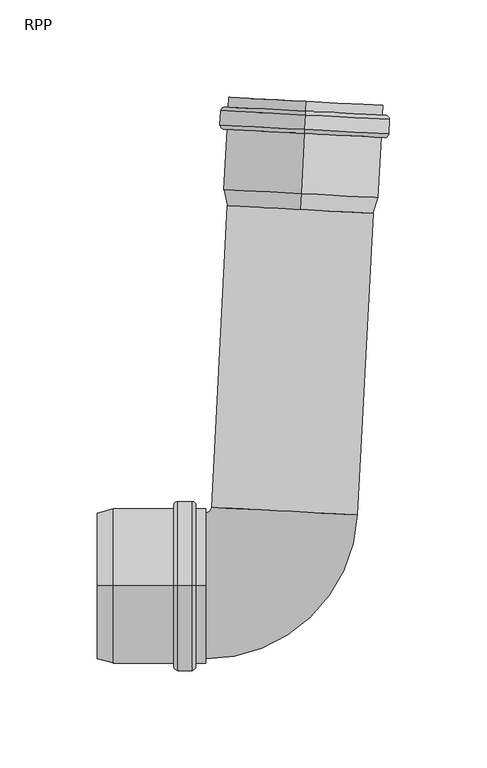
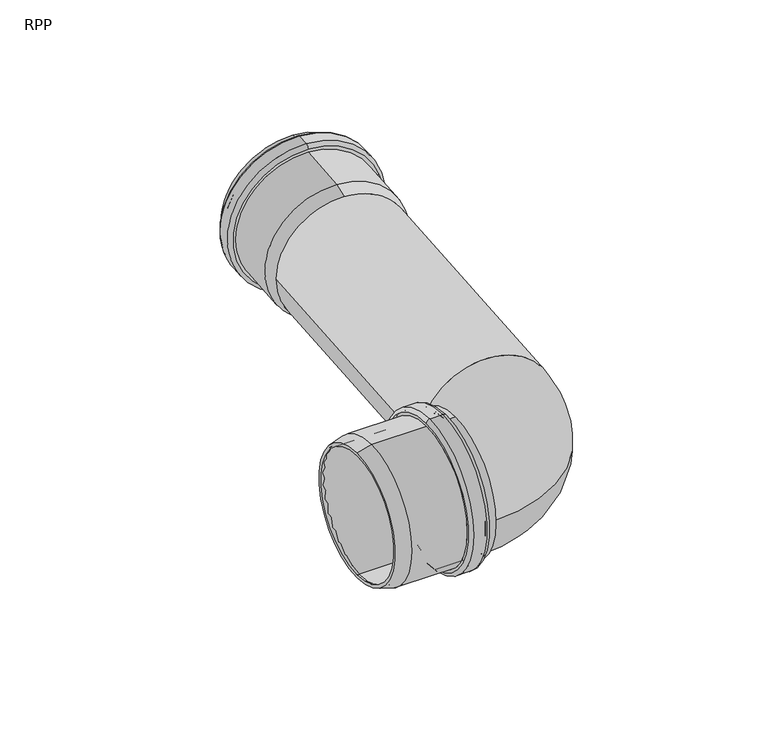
"""IFC4 building model written with IfcOpenShell, lengths in millimetres: pipe fitting geometry, RAUPIANO PLUS Deflection Bend : RPP."""

from ifc_helpers import new_model, si_unit, point, frame, origin, place, context, project, spatial, polyline, circle_curve, ellipse_curve, trimmed, source, transform, mapped, element, save
from ifc_brep_helpers import plane_surface, cylinder_surface, revolved_surface, advanced_brep


def rpp_fa5d5660(model_context):
    return source(origin(), model_context, "Body", "AdvancedBrep", [
        advanced_brep(
        [(-52.933065, 0.0, 37.8), (-52.933065, 0.0, -37.8), (-85.5724134, 0.0, -37.8), (-85.5724134, 0.0, 37.8), (-52.433065, 0.0, 41.6), (-52.433065, 0.0, -41.6), (-52.933065, 0.0, -41.1), (-52.933065, 0.0, 41.1), (-45.833065, 0.0, 41.6), (-45.833065, 0.0, -41.6), (-45.333065, 0.0, 41.1), (-45.333065, 0.0, -41.1), (-38.433065, 0.0, 37.8), (-38.433065, 0.0, -37.8), (-45.333065, 0.0, -37.8), (-45.333065, 0.0, 37.8), (-43.433065, 0.0, 39.7), (-43.433065, 0.0, -39.7), (-38.433065, 0.0, -39.7), (-38.433065, 0.0, 39.7), (-45.433065, 0.0, 43.5), (-45.433065, 0.0, -43.5), (-43.433065, 0.0, -41.5), (-43.433065, 0.0, 41.5), (-52.833065, 0.0, 43.5), (-52.833065, 0.0, -43.5), (-54.833065, 0.0, 41.5), (-54.833065, 0.0, -41.5), (-85.8225532, 0.0, 39.7), (-85.8225532, 0.0, -39.7), (-54.833065, 0.0, -39.7), (-54.833065, 0.0, 39.7), (-94.033065, 0.0, 37.5), (-94.033065, 0.0, -37.5), (-94.033065, 0.0, -35.5329753), (-94.033065, 0.0, 35.5329753)],
        [
            (0, 1, circle_curve(frame((-52.933065, 0.0, 0.0), z_axis=(1.0, 0.0, 0.0), x_axis=(0.0, 0.0, -1.0)), 37.8)),
            (1, 2),
            (2, 3, circle_curve(frame((-85.5724134, 0.0, 0.0), z_axis=(-1.0, 0.0, 0.0), x_axis=(0.0, 0.0, -1.0)), 37.8)),
            (3, 0),
            (4, 5, circle_curve(frame((-52.433065, 0.0, 0.0), z_axis=(1.0, 0.0, 0.0), x_axis=(0.0, 0.0, -1.0)), 41.6)),
            (5, 6, circle_curve(frame((-52.433065, 0.0, -41.1), z_axis=(0.0, 1.0, 0.0), x_axis=(0.0, 0.0, 1.0)), 0.5)),
            (6, 7, circle_curve(frame((-52.933065, 0.0, 0.0), z_axis=(-1.0, 0.0, 0.0), x_axis=(0.0, 0.0, -1.0)), 41.1)),
            (7, 4, circle_curve(frame((-52.433065, 0.0, 41.1), z_axis=(0.0, 1.0, 0.0), x_axis=(0.0, 0.0, -1.0)), 0.5)),
            (8, 9, circle_curve(frame((-45.833065, 0.0, 0.0), z_axis=(1.0, 0.0, 0.0), x_axis=(0.0, 0.0, -1.0)), 41.6)),
            (9, 5),
            (4, 8),
            (10, 11, circle_curve(frame((-45.333065, 0.0, 0.0), z_axis=(1.0, 0.0, 0.0), x_axis=(0.0, 0.0, -1.0)), 41.1)),
            (11, 9, circle_curve(frame((-45.833065, 0.0, -41.1), z_axis=(0.0, 1.0, 0.0), x_axis=(0.0, 0.0, 1.0)), 0.5)),
            (8, 10, circle_curve(frame((-45.833065, 0.0, 41.1), z_axis=(0.0, 1.0, 0.0), x_axis=(0.0, 0.0, -1.0)), 0.5)),
            (12, 13, circle_curve(frame((-38.433065, 0.0, 0.0), z_axis=(1.0, 0.0, 0.0), x_axis=(0.0, 0.0, -1.0)), 37.8)),
            (13, 14),
            (14, 15, circle_curve(frame((-45.333065, 0.0, 0.0), z_axis=(-1.0, 0.0, 0.0), x_axis=(0.0, 0.0, -1.0)), 37.8)),
            (15, 12),
            (16, 17, circle_curve(frame((-43.433065, 0.0, 0.0), z_axis=(1.0, 0.0, 0.0), x_axis=(0.0, 0.0, -1.0)), 39.7)),
            (17, 18),
            (18, 19, circle_curve(frame((-38.433065, 0.0, 0.0), z_axis=(-1.0, 0.0, 0.0), x_axis=(0.0, 0.0, -1.0)), 39.7)),
            (19, 16),
            (20, 21, circle_curve(frame((-45.433065, 0.0, 0.0), z_axis=(1.0, 0.0, 0.0), x_axis=(0.0, 0.0, -1.0)), 43.5)),
            (21, 22, circle_curve(frame((-45.433065, 0.0, -41.5), z_axis=(0.0, -1.0, 0.0), x_axis=(0.0, 0.0, 1.0)), 2.0)),
            (22, 23, circle_curve(frame((-43.433065, 0.0, 0.0), z_axis=(-1.0, 0.0, 0.0), x_axis=(0.0, 0.0, -1.0)), 41.5)),
            (23, 20, circle_curve(frame((-45.433065, 0.0, 41.5), z_axis=(0.0, -1.0, 0.0), x_axis=(0.0, 0.0, -1.0)), 2.0)),
            (24, 25, circle_curve(frame((-52.833065, 0.0, 0.0), z_axis=(1.0, 0.0, 0.0), x_axis=(0.0, 0.0, -1.0)), 43.5)),
            (25, 21),
            (20, 24),
            (26, 27, circle_curve(frame((-54.833065, 0.0, 0.0), z_axis=(1.0, 0.0, 0.0), x_axis=(0.0, 0.0, -1.0)), 41.5)),
            (27, 25, circle_curve(frame((-52.833065, 0.0, -41.5), z_axis=(0.0, -1.0, 0.0), x_axis=(0.0, 0.0, 1.0)), 2.0)),
            (24, 26, circle_curve(frame((-52.833065, 0.0, 41.5), z_axis=(0.0, -1.0, 0.0), x_axis=(0.0, 0.0, -1.0)), 2.0)),
            (28, 29, circle_curve(frame((-85.8225532, 0.0, 0.0), z_axis=(1.0, 0.0, 0.0), x_axis=(0.0, 0.0, -1.0)), 39.7)),
            (29, 30),
            (30, 31, circle_curve(frame((-54.833065, 0.0, 0.0), z_axis=(-1.0, 0.0, 0.0), x_axis=(0.0, 0.0, -1.0)), 39.7)),
            (31, 28),
            (32, 33, circle_curve(frame((-94.033065, 0.0, 0.0), z_axis=(1.0, 0.0, 0.0), x_axis=(0.0, 0.0, -1.0)), 37.5)),
            (33, 29),
            (28, 32),
            (2, 34),
            (34, 35, circle_curve(frame((-94.033065, 0.0, 0.0), z_axis=(-1.0, 0.0, 0.0), x_axis=(0.0, 0.0, -1.0)), 35.5329753)),
            (35, 3),
            (1, 0, circle_curve(frame((-52.933065, 0.0, 0.0), z_axis=(1.0, 0.0, 0.0), x_axis=(0.0, 0.0, 1.0)), 37.8)),
            (3, 2, circle_curve(frame((-85.5724134, 0.0, 0.0), z_axis=(-1.0, 0.0, 0.0), x_axis=(0.0, 0.0, 1.0)), 37.8)),
            (6, 7, circle_curve(frame((-52.933065, 0.0, 0.0), z_axis=(1.0, 0.0, 0.0), x_axis=(0.0, 0.0, 1.0)), 41.1)),
            (5, 4, circle_curve(frame((-52.433065, 0.0, 0.0), z_axis=(1.0, 0.0, 0.0), x_axis=(0.0, 0.0, 1.0)), 41.6)),
            (9, 8, circle_curve(frame((-45.833065, 0.0, 0.0), z_axis=(1.0, 0.0, 0.0), x_axis=(0.0, 0.0, 1.0)), 41.6)),
            (11, 10, circle_curve(frame((-45.333065, 0.0, 0.0), z_axis=(1.0, 0.0, 0.0), x_axis=(0.0, 0.0, 1.0)), 41.1)),
            (14, 15, circle_curve(frame((-45.333065, 0.0, 0.0), z_axis=(1.0, 0.0, 0.0), x_axis=(0.0, 0.0, 1.0)), 37.8)),
            (13, 12, circle_curve(frame((-38.433065, 0.0, 0.0), z_axis=(1.0, 0.0, 0.0), x_axis=(0.0, 0.0, 1.0)), 37.8)),
            (18, 19, circle_curve(frame((-38.433065, 0.0, 0.0), z_axis=(1.0, 0.0, 0.0), x_axis=(0.0, 0.0, 1.0)), 39.7)),
            (17, 16, circle_curve(frame((-43.433065, 0.0, 0.0), z_axis=(1.0, 0.0, 0.0), x_axis=(0.0, 0.0, 1.0)), 39.7)),
            (22, 23, circle_curve(frame((-43.433065, 0.0, 0.0), z_axis=(1.0, 0.0, 0.0), x_axis=(0.0, 0.0, 1.0)), 41.5)),
            (21, 20, circle_curve(frame((-45.433065, 0.0, 0.0), z_axis=(1.0, 0.0, 0.0), x_axis=(0.0, 0.0, 1.0)), 43.5)),
            (25, 24, circle_curve(frame((-52.833065, 0.0, 0.0), z_axis=(1.0, 0.0, 0.0), x_axis=(0.0, 0.0, 1.0)), 43.5)),
            (27, 26, circle_curve(frame((-54.833065, 0.0, 0.0), z_axis=(1.0, 0.0, 0.0), x_axis=(0.0, 0.0, 1.0)), 41.5)),
            (30, 31, circle_curve(frame((-54.833065, 0.0, 0.0), z_axis=(1.0, 0.0, 0.0), x_axis=(0.0, 0.0, 1.0)), 39.7)),
            (29, 28, circle_curve(frame((-85.8225532, 0.0, 0.0), z_axis=(1.0, 0.0, 0.0), x_axis=(0.0, 0.0, 1.0)), 39.7)),
            (33, 32, circle_curve(frame((-94.033065, 0.0, 0.0), z_axis=(1.0, 0.0, 0.0), x_axis=(0.0, 0.0, 1.0)), 37.5)),
            (34, 35, circle_curve(frame((-94.033065, 0.0, 0.0), z_axis=(1.0, 0.0, 0.0), x_axis=(0.0, 0.0, 1.0)), 35.5329753)),
        ],
        [
            revolved_surface(polyline([(-85.5724134, 0.0, -37.8), (-52.933065, 0.0, -37.8)]), (-94.033065, 0.0, 0.0), (-1.0, 0.0, 0.0)),
            revolved_surface(trimmed(ellipse_curve(frame((-52.433065, 0.0, -41.1), z_axis=(0.0, -1.0, 0.0), x_axis=(0.0, 0.0, 1.0)), 0.5, 0.5), [point((-52.933065, 0.0, -41.1))], [point((-52.433065, 0.0, -41.6))], True, "CARTESIAN"), (-94.033065, 0.0, 0.0), (-1.0, 0.0, 0.0)),
            revolved_surface(polyline([(-52.433065, 0.0, -41.6), (-45.833065, 0.0, -41.6)]), (-94.033065, 0.0, 0.0), (-1.0, 0.0, 0.0)),
            revolved_surface(trimmed(ellipse_curve(frame((-45.833065, 0.0, -41.1), z_axis=(0.0, -1.0, 0.0), x_axis=(0.0, 0.0, 1.0)), 0.5, 0.5), [point((-45.833065, 0.0, -41.6))], [point((-45.333065, 0.0, -41.1))], True, "CARTESIAN"), (-94.033065, 0.0, 0.0), (-1.0, 0.0, 0.0)),
            revolved_surface(polyline([(-45.333065, 0.0, -37.8), (-38.433065, 0.0, -37.8)]), (-94.033065, 0.0, 0.0), (-1.0, 0.0, 0.0)),
            cylinder_surface(frame((-94.033065, 0.0, 0.0), z_axis=(-1.0, 0.0, 0.0), x_axis=(0.0, 0.0, -1.0)), 39.7),
            revolved_surface(trimmed(ellipse_curve(frame((-45.433065, 0.0, -41.5), z_axis=(0.0, 1.0, 0.0), x_axis=(0.0, 0.0, 1.0)), 2.0, 2.0), [point((-43.433065, 0.0, -41.5))], [point((-45.433065, 0.0, -43.5))], True, "CARTESIAN"), (-94.033065, 0.0, 0.0), (-1.0, 0.0, 0.0)),
            cylinder_surface(frame((-94.033065, 0.0, 0.0), z_axis=(-1.0, 0.0, 0.0), x_axis=(0.0, 0.0, -1.0)), 43.5),
            revolved_surface(trimmed(ellipse_curve(frame((-52.833065, 0.0, -41.5), z_axis=(0.0, 1.0, 0.0), x_axis=(0.0, 0.0, 1.0)), 2.0, 2.0), [point((-52.833065, 0.0, -43.5))], [point((-54.833065, 0.0, -41.5))], True, "CARTESIAN"), (-94.033065, 0.0, 0.0), (-1.0, 0.0, 0.0)),
            revolved_surface(polyline([(-85.8225532, 0.0, -39.7), (-94.033065, 0.0, -37.5)]), (-94.033065, 0.0, 0.0), (-1.0, 0.0, 0.0)),
            revolved_surface(polyline([(-94.033065, 0.0, -35.5329753), (-85.5724134, 0.0, -37.8)]), (-94.033065, 0.0, 0.0), (-1.0, 0.0, 0.0)),
            revolved_surface(polyline([(-85.5724134, 0.0, 37.8), (-52.933065, 0.0, 37.8)]), (-94.033065, 0.0, 0.0), (-1.0, 0.0, 0.0)),
            plane_surface(frame((-52.933065, 0.0, 0.0), z_axis=(1.0, 0.0, 0.0), x_axis=(0.0, 0.0, 1.0))),
            revolved_surface(trimmed(ellipse_curve(frame((-52.433065, 0.0, 41.1), z_axis=(0.0, 1.0, 0.0), x_axis=(0.0, 0.0, -1.0)), 0.5, 0.5), [point((-52.933065, 0.0, 41.1))], [point((-52.433065, 0.0, 41.6))], True, "CARTESIAN"), (-94.033065, 0.0, 0.0), (-1.0, 0.0, 0.0)),
            revolved_surface(polyline([(-52.433065, 0.0, 41.6), (-45.833065, 0.0, 41.6)]), (-94.033065, 0.0, 0.0), (-1.0, 0.0, 0.0)),
            revolved_surface(trimmed(ellipse_curve(frame((-45.833065, 0.0, 41.1), z_axis=(0.0, 1.0, 0.0), x_axis=(0.0, 0.0, -1.0)), 0.5, 0.5), [point((-45.833065, 0.0, 41.6))], [point((-45.333065, 0.0, 41.1))], True, "CARTESIAN"), (-94.033065, 0.0, 0.0), (-1.0, 0.0, 0.0)),
            plane_surface(frame((-45.333065, 0.0, 0.0), z_axis=(-1.0, 0.0, 0.0), x_axis=(0.0, 0.0, 1.0))),
            revolved_surface(polyline([(-45.333065, 0.0, 37.8), (-38.433065, 0.0, 37.8)]), (-94.033065, 0.0, 0.0), (-1.0, 0.0, 0.0)),
            plane_surface(frame((-38.433065, 0.0, 0.0), z_axis=(1.0, 0.0, 0.0), x_axis=(0.0, 0.0, 1.0))),
            cylinder_surface(frame((-94.033065, 0.0, 0.0), z_axis=(-1.0, 0.0, 0.0), x_axis=(0.0, 0.0, 1.0)), 39.7),
            plane_surface(frame((-43.433065, 0.0, 0.0), z_axis=(1.0, 0.0, 0.0), x_axis=(0.0, 0.0, 1.0))),
            revolved_surface(trimmed(ellipse_curve(frame((-45.433065, 0.0, 41.5), z_axis=(0.0, -1.0, 0.0), x_axis=(0.0, 0.0, -1.0)), 2.0, 2.0), [point((-43.433065, 0.0, 41.5))], [point((-45.433065, 0.0, 43.5))], True, "CARTESIAN"), (-94.033065, 0.0, 0.0), (-1.0, 0.0, 0.0)),
            cylinder_surface(frame((-94.033065, 0.0, 0.0), z_axis=(-1.0, 0.0, 0.0), x_axis=(0.0, 0.0, 1.0)), 43.5),
            revolved_surface(trimmed(ellipse_curve(frame((-52.833065, 0.0, 41.5), z_axis=(0.0, -1.0, 0.0), x_axis=(0.0, 0.0, -1.0)), 2.0, 2.0), [point((-52.833065, 0.0, 43.5))], [point((-54.833065, 0.0, 41.5))], True, "CARTESIAN"), (-94.033065, 0.0, 0.0), (-1.0, 0.0, 0.0)),
            plane_surface(frame((-54.833065, 0.0, 0.0), z_axis=(-1.0, 0.0, 0.0), x_axis=(0.0, 0.0, 1.0))),
            revolved_surface(polyline([(-85.8225532, 0.0, 39.7), (-94.033065, 0.0, 37.5)]), (-94.033065, 0.0, 0.0), (-1.0, 0.0, 0.0)),
            plane_surface(frame((-94.033065, 0.0, 0.0), z_axis=(-1.0, 0.0, 0.0), x_axis=(0.0, 0.0, 1.0))),
            revolved_surface(polyline([(-94.033065, 0.0, 35.5329753), (-85.5724134, 0.0, 37.8)]), (-94.033065, 0.0, 0.0), (-1.0, 0.0, 0.0)),
        ],
        [
            (0, [[1, 2, 3, 4]]),
            (1, [[5, 6, 7, 8]]),
            (2, [[9, 10, -5, 11]]),
            (3, [[12, 13, -9, 14]]),
            (4, [[15, 16, 17, 18]]),
            (5, [[19, 20, 21, 22]]),
            (6, [[23, 24, 25, 26]]),
            (7, [[27, 28, -23, 29]]),
            (8, [[30, 31, -27, 32]]),
            (5, [[33, 34, 35, 36]]),
            (9, [[37, 38, -33, 39]]),
            (10, [[-3, 40, 41, 42]]),
            (11, [[43, -4, 44, -2]]),
            (12, [[45, -7], [-43, -1]]),
            (13, [[46, -8, -45, -6]]),
            (14, [[47, -11, -46, -10]]),
            (15, [[48, -14, -47, -13]]),
            (16, [[-48, -12], [49, -17]]),
            (17, [[50, -18, -49, -16]]),
            (18, [[51, -21], [-50, -15]]),
            (19, [[52, -22, -51, -20]]),
            (20, [[53, -25], [-52, -19]]),
            (21, [[54, -26, -53, -24]]),
            (22, [[55, -29, -54, -28]]),
            (23, [[56, -32, -55, -31]]),
            (24, [[-56, -30], [57, -35]]),
            (19, [[58, -36, -57, -34]]),
            (25, [[59, -39, -58, -38]]),
            (26, [[-59, -37], [60, -41]]),
            (27, [[-44, -42, -60, -40]]),
        ],
    ),
        advanced_brep(
        [(-38.433065, 0.0, -35.6), (-94.033065, 0.0, -35.6), (-94.033065, 0.0, 35.6), (-38.433065, 0.0, 35.6), (-38.433065, -35.6, 0.0), (-90.3010141, 0.0, 37.5), (-90.3010141, 0.0, -37.5), (-38.433065, 0.0, -37.5), (-38.433065, -37.5, 0.0), (-38.433065, 0.0, 37.5), (-94.033065, 0.0, 36.5), (-94.033065, 0.0, -36.5), (-38.433065, 35.6, 0.0), (-38.433065, 37.5, 0.0), (-33.5397802, 40.2435538, 0.0), (37.5626426, 36.5172337, 0.0), (-35.4371763, 40.3429921, 0.0), (39.4600388, 36.4177954, 0.0), (2.0114312, 38.3803938, 37.5), (2.0114312, 38.3803938, -37.5), (47.572112, 191.2053733, 0.0), (-27.3251031, 195.13057, 0.0), (45.6747159, 191.3048116, 0.0), (-25.427707, 195.0311317, 0.0)],
        [
            (0, 1),
            (1, 2, circle_curve(frame((-94.033065, 0.0, 0.0), z_axis=(-1.0, 0.0, 0.0), x_axis=(0.0, 0.0, -1.0)), 35.6)),
            (2, 3),
            (3, 4, circle_curve(frame((-38.433065, 0.0, 0.0), z_axis=(1.0, 0.0, 0.0), x_axis=(0.0, 0.0, -1.0)), 35.6)),
            (4, 0, circle_curve(frame((-38.433065, 0.0, 0.0), z_axis=(1.0, 0.0, 0.0), x_axis=(0.0, 0.0, -1.0)), 35.6)),
            (5, 6, circle_curve(frame((-90.3010141, 0.0, 0.0), z_axis=(1.0, 0.0, 0.0), x_axis=(0.0, 0.0, -1.0)), 37.5)),
            (6, 7),
            (7, 8, circle_curve(frame((-38.433065, 0.0, 0.0), z_axis=(-1.0, 0.0, 0.0), x_axis=(0.0, 0.0, -1.0)), 37.5)),
            (8, 9, circle_curve(frame((-38.433065, 0.0, 0.0), z_axis=(-1.0, 0.0, 0.0), x_axis=(0.0, 0.0, -1.0)), 37.5)),
            (9, 5),
            (5, 10),
            (10, 11, circle_curve(frame((-94.033065, 0.0, 0.0), z_axis=(1.0, 0.0, 0.0), x_axis=(0.0, 0.0, -1.0)), 36.5)),
            (11, 6),
            (0, 12, circle_curve(frame((-38.433065, 0.0, 0.0), z_axis=(1.0, 0.0, 0.0), x_axis=(0.0, 0.0, 1.0)), 35.6)),
            (12, 3, circle_curve(frame((-38.433065, 0.0, 0.0), z_axis=(1.0, 0.0, 0.0), x_axis=(0.0, 0.0, 1.0)), 35.6)),
            (2, 1, circle_curve(frame((-94.033065, 0.0, 0.0), z_axis=(-1.0, 0.0, 0.0), x_axis=(0.0, 0.0, 1.0)), 35.6)),
            (6, 5, circle_curve(frame((-90.3010141, 0.0, 0.0), z_axis=(1.0, 0.0, 0.0), x_axis=(0.0, 0.0, 1.0)), 37.5)),
            (9, 13, circle_curve(frame((-38.433065, 0.0, 0.0), z_axis=(-1.0, 0.0, 0.0), x_axis=(0.0, 0.0, 1.0)), 37.5)),
            (13, 7, circle_curve(frame((-38.433065, 0.0, 0.0), z_axis=(-1.0, 0.0, 0.0), x_axis=(0.0, 0.0, 1.0)), 37.5)),
            (11, 10, circle_curve(frame((-94.033065, 0.0, 0.0), z_axis=(1.0, 0.0, 0.0), x_axis=(0.0, 0.0, 1.0)), 36.5)),
            (14, 12, circle_curve(frame((-38.433065, 40.5, 0.0), z_axis=(0.0, 0.0, -1.0), x_axis=(0.0, -1.0, 0.0)), 4.9)),
            (4, 15, circle_curve(frame((-38.433065, 40.5, 0.0), z_axis=(0.0, 0.0, 1.0), x_axis=(0.0, -1.0, 0.0)), 76.1)),
            (15, 14, circle_curve(frame((2.0114312, 38.3803938, 0.0), z_axis=(0.05233595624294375, 0.9986295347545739, 0.0), x_axis=(-0.9986295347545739, 0.05233595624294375, 0.0)), 35.6)),
            (14, 15, circle_curve(frame((2.0114312, 38.3803938, 0.0), z_axis=(0.05233595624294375, 0.9986295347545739, 0.0), x_axis=(-0.9986295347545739, 0.05233595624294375, 0.0)), 35.6)),
            (16, 13, circle_curve(frame((-38.433065, 40.5, 0.0), z_axis=(0.0, 0.0, -1.0), x_axis=(0.0, -1.0, 0.0)), 3.0)),
            (8, 17, circle_curve(frame((-38.433065, 40.5, 0.0), z_axis=(0.0, 0.0, 1.0), x_axis=(0.0, -1.0, 0.0)), 78.0)),
            (17, 18, circle_curve(frame((2.0114312, 38.3803938, 0.0), z_axis=(-0.05233595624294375, -0.9986295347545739, 0.0), x_axis=(-0.9986295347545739, 0.05233595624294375, 0.0)), 37.5)),
            (18, 16, circle_curve(frame((2.0114312, 38.3803938, 0.0), z_axis=(-0.05233595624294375, -0.9986295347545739, 0.0), x_axis=(-0.9986295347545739, 0.05233595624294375, 0.0)), 37.5)),
            (16, 19, circle_curve(frame((2.0114312, 38.3803938, 0.0), z_axis=(-0.05233595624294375, -0.9986295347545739, 0.0), x_axis=(-0.9986295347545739, 0.05233595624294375, 0.0)), 37.5)),
            (19, 17, circle_curve(frame((2.0114312, 38.3803938, 0.0), z_axis=(-0.05233595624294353, -0.9986295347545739, 0.0), x_axis=(-0.9986295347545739, 0.05233595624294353, 0.0)), 37.5)),
            (20, 21, circle_curve(frame((10.1235044, 193.1679717, 0.0), z_axis=(0.05233595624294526, 0.9986295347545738, 0.0), x_axis=(-0.9986295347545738, 0.05233595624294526, 0.0)), 37.5)),
            (21, 20, circle_curve(frame((10.1235044, 193.1679717, 0.0), z_axis=(0.05233595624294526, 0.9986295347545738, 0.0), x_axis=(-0.9986295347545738, 0.05233595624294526, 0.0)), 37.5)),
            (22, 23, circle_curve(frame((10.1235044, 193.1679717, 0.0), z_axis=(-0.05233595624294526, -0.9986295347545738, 0.0), x_axis=(-0.9986295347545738, 0.05233595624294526, 0.0)), 35.6)),
            (23, 22, circle_curve(frame((10.1235044, 193.1679717, 0.0), z_axis=(-0.05233595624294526, -0.9986295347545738, 0.0), x_axis=(-0.9986295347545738, 0.05233595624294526, 0.0)), 35.6)),
            (23, 14),
            (15, 22),
            (21, 16),
            (17, 20),
        ],
        [
            revolved_surface(polyline([(-94.033065, 0.0, -35.6), (-38.433065, 0.0, -35.6)]), (-38.433065, 0.0, 0.0), (-1.0, 0.0, 0.0)),
            cylinder_surface(frame((-38.433065, 0.0, 0.0), z_axis=(-1.0, 0.0, 0.0), x_axis=(0.0, 0.0, -1.0)), 37.5),
            revolved_surface(polyline([(-90.3010141, 0.0, -37.5), (-94.033065, 0.0, -36.5)]), (-38.433065, 0.0, 0.0), (-1.0, 0.0, 0.0)),
            revolved_surface(polyline([(-94.033065, 0.0, 35.6), (-38.433065, 0.0, 35.6)]), (-38.433065, 0.0, 0.0), (-1.0, 0.0, 0.0)),
            cylinder_surface(frame((-38.433065, 0.0, 0.0), z_axis=(-1.0, 0.0, 0.0), x_axis=(0.0, 0.0, 1.0)), 37.5),
            revolved_surface(polyline([(-90.3010141, 0.0, 37.5), (-94.033065, 0.0, 36.5)]), (-38.433065, 0.0, 0.0), (-1.0, 0.0, 0.0)),
            plane_surface(frame((-94.033065, 0.0, 0.0), z_axis=(-1.0, 0.0, 0.0), x_axis=(0.0, 0.0, 1.0))),
            revolved_surface(trimmed(ellipse_curve(frame((-38.433065, 0.0, 0.0), z_axis=(1.0, 0.0, 0.0), x_axis=(0.0, 1.0, 0.0)), 35.6, 35.6), [point((-38.433065, -35.6, 0.0))], [point((-38.433065, 35.6, 0.0))], True, "CARTESIAN"), (-38.433065, 40.5, 0.0), (0.0, 0.0, 1.0)),
            revolved_surface(trimmed(ellipse_curve(frame((-38.433065, 0.0, 0.0), z_axis=(1.0, 0.0, 0.0), x_axis=(0.0, 1.0, 0.0)), 35.6, 35.6), [point((-38.433065, 35.6, 0.0))], [point((-38.433065, -35.6, 0.0))], True, "CARTESIAN"), (-38.433065, 40.5, 0.0), (0.0, 0.0, 1.0)),
            revolved_surface(trimmed(ellipse_curve(frame((-38.433065, 0.0, 0.0), z_axis=(-1.0, 0.0, 0.0), x_axis=(0.0, 1.0, 0.0)), 37.5, 37.5), [point((-38.433065, -37.5, 0.0))], [point((-38.433065, 37.5, 0.0))], True, "CARTESIAN"), (-38.433065, 40.5, 0.0), (0.0, 0.0, 1.0)),
            revolved_surface(trimmed(ellipse_curve(frame((-38.433065, 0.0, 0.0), z_axis=(-1.0, 0.0, 0.0), x_axis=(0.0, 1.0, 0.0)), 37.5, 37.5), [point((-38.433065, 37.5, 0.0))], [point((-38.433065, -37.5, 0.0))], True, "CARTESIAN"), (-38.433065, 40.5, 0.0), (0.0, 0.0, 1.0)),
            plane_surface(frame((10.1235044, 193.1679717, 0.0), z_axis=(0.05233595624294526, 0.9986295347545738, 0.0), x_axis=(0.0, 0.0, 1.0))),
            revolved_surface(polyline([(-25.4277070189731, 195.03113174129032, 0.0), (-33.539780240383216, 40.24355378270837, 0.0)]), (2.0114312, 38.3803938, 0.0), (0.05233595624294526, 0.9986295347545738, 0.0)),
            cylinder_surface(frame((2.0114312, 38.3803938, 0.0), z_axis=(-0.05233595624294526, -0.9986295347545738, 0.0), x_axis=(-0.9986295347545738, 0.05233595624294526, 0.0)), 37.5),
        ],
        [
            (0, [[1, 2, 3, 4, 5]]),
            (1, [[6, 7, 8, 9, 10]]),
            (2, [[-6, 11, 12, 13]]),
            (3, [[-1, 14, 15, -3, 16]]),
            (4, [[-7, 17, -10, 18, 19]]),
            (5, [[-13, 20, -11, -17]]),
            (6, [[-12, -20], [-2, -16]]),
            (7, [[21, -14, -5, 22, 23]]),
            (8, [[-21, 24, -22, -4, -15]]),
            (9, [[25, -18, -9, 26, 27, 28]]),
            (10, [[-25, 29, 30, -26, -8, -19]]),
            (11, [[31, 32], [33, 34]]),
            (12, [[-34, 35, -23, 36]]),
            (12, [[-33, -36, -24, -35]]),
            (13, [[-32, 37, -28, -27, 38]]),
            (13, [[-31, -38, -30, -29, -37]]),
        ],
    ),
        advanced_brep(
        [(10.1235044, 193.1679717, 35.5329753), (10.1235044, 193.1679717, -35.5329753), (10.5663007, 201.6170282, -37.8), (10.5663007, 201.6170282, 37.8), (10.5532094, 201.3672312, 39.7), (10.5532094, 201.3672312, -39.7), (10.1235044, 193.1679717, -37.5), (10.1235044, 193.1679717, 37.5), (12.1750739, 232.3142494, 39.7), (12.1750739, 232.3142494, -39.7), (12.2797458, 234.3115085, 43.5), (12.2797458, 234.3115085, -43.5), (12.1750739, 232.3142494, -41.5), (12.1750739, 232.3142494, 41.5), (12.6670319, 241.701367, 43.5), (12.6670319, 241.701367, -43.5), (12.7717038, 243.6986261, 41.5), (12.7717038, 243.6986261, -41.5), (13.0333836, 248.6917738, 39.7), (13.0333836, 248.6917738, -39.7), (12.7717038, 243.6986261, -39.7), (12.7717038, 243.6986261, 39.7), (12.6722655, 241.80123, 37.8), (12.6722655, 241.80123, -37.8), (13.0333836, 248.6917738, -37.8), (13.0333836, 248.6917738, 37.8), (12.6460975, 241.3019152, 41.6), (12.6460975, 241.3019152, -41.6), (12.6722655, 241.80123, -41.1), (12.6722655, 241.80123, 41.1), (12.3006802, 234.7109603, 41.6), (12.3006802, 234.7109603, -41.6), (12.2745122, 234.2116455, 41.1), (12.2745122, 234.2116455, -41.1), (12.2745122, 234.2116455, -37.8), (12.2745122, 234.2116455, 37.8)],
        [
            (0, 1, circle_curve(frame((10.1235044, 193.1679717, 0.0), z_axis=(-0.05233595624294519, -0.9986295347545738, 0.0), x_axis=(0.0, 0.0, -1.0)), 35.5329753)),
            (1, 2),
            (2, 3, circle_curve(frame((10.5663007, 201.6170282, 0.0), z_axis=(0.05233595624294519, 0.9986295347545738, 0.0), x_axis=(0.0, 0.0, -1.0)), 37.8)),
            (3, 0),
            (4, 5, circle_curve(frame((10.5532094, 201.3672312, 0.0), z_axis=(-0.05233595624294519, -0.9986295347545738, 0.0), x_axis=(0.0, 0.0, -1.0)), 39.7)),
            (5, 6),
            (6, 7, circle_curve(frame((10.1235044, 193.1679717, 0.0), z_axis=(0.05233595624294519, 0.9986295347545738, 0.0), x_axis=(0.0, 0.0, -1.0)), 37.5)),
            (7, 4),
            (8, 9, circle_curve(frame((12.1750739, 232.3142494, 0.0), z_axis=(-0.05233595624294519, -0.9986295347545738, 0.0), x_axis=(0.0, 0.0, -1.0)), 39.7)),
            (9, 5),
            (4, 8),
            (10, 11, circle_curve(frame((12.2797458, 234.3115085, 0.0), z_axis=(-0.05233595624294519, -0.9986295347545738, 0.0), x_axis=(0.0, 0.0, -1.0)), 43.5)),
            (11, 12, circle_curve(frame((12.2797458, 234.3115085, -41.5), z_axis=(-0.9986295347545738, 0.05233595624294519, 0.0), x_axis=(0.0, 0.0, 1.0)), 2.0)),
            (12, 13, circle_curve(frame((12.1750739, 232.3142494, 0.0), z_axis=(0.05233595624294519, 0.9986295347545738, 0.0), x_axis=(0.0, 0.0, -1.0)), 41.5)),
            (13, 10, circle_curve(frame((12.2797458, 234.3115085, 41.5), z_axis=(-0.9986295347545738, 0.05233595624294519, 0.0), x_axis=(0.0, 0.0, -1.0)), 2.0)),
            (14, 15, circle_curve(frame((12.6670319, 241.701367, 0.0), z_axis=(-0.05233595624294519, -0.9986295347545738, 0.0), x_axis=(0.0, 0.0, -1.0)), 43.5)),
            (15, 11),
            (10, 14),
            (16, 17, circle_curve(frame((12.7717038, 243.6986261, 0.0), z_axis=(-0.05233595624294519, -0.9986295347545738, 0.0), x_axis=(0.0, 0.0, -1.0)), 41.5)),
            (17, 15, circle_curve(frame((12.6670319, 241.701367, -41.5), z_axis=(-0.9986295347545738, 0.05233595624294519, 0.0), x_axis=(0.0, 0.0, 1.0)), 2.0)),
            (14, 16, circle_curve(frame((12.6670319, 241.701367, 41.5), z_axis=(-0.9986295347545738, 0.05233595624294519, 0.0), x_axis=(0.0, 0.0, -1.0)), 2.0)),
            (18, 19, circle_curve(frame((13.0333836, 248.6917738, 0.0), z_axis=(-0.05233595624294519, -0.9986295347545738, 0.0), x_axis=(0.0, 0.0, -1.0)), 39.7)),
            (19, 20),
            (20, 21, circle_curve(frame((12.7717038, 243.6986261, 0.0), z_axis=(0.05233595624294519, 0.9986295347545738, 0.0), x_axis=(0.0, 0.0, -1.0)), 39.7)),
            (21, 18),
            (22, 23, circle_curve(frame((12.6722655, 241.80123, 0.0), z_axis=(-0.05233595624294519, -0.9986295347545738, 0.0), x_axis=(0.0, 0.0, -1.0)), 37.8)),
            (23, 24),
            (24, 25, circle_curve(frame((13.0333836, 248.6917738, 0.0), z_axis=(0.05233595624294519, 0.9986295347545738, 0.0), x_axis=(0.0, 0.0, -1.0)), 37.8)),
            (25, 22),
            (26, 27, circle_curve(frame((12.6460975, 241.3019152, 0.0), z_axis=(-0.05233595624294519, -0.9986295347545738, 0.0), x_axis=(0.0, 0.0, -1.0)), 41.6)),
            (27, 28, circle_curve(frame((12.6460975, 241.3019152, -41.1), z_axis=(0.9986295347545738, -0.05233595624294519, 0.0), x_axis=(0.0, 0.0, 1.0)), 0.5)),
            (28, 29, circle_curve(frame((12.6722655, 241.80123, 0.0), z_axis=(0.05233595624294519, 0.9986295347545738, 0.0), x_axis=(0.0, 0.0, -1.0)), 41.1)),
            (29, 26, circle_curve(frame((12.6460975, 241.3019152, 41.1), z_axis=(0.9986295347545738, -0.05233595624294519, 0.0), x_axis=(0.0, 0.0, -1.0)), 0.5)),
            (30, 31, circle_curve(frame((12.3006802, 234.7109603, 0.0), z_axis=(-0.05233595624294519, -0.9986295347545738, 0.0), x_axis=(0.0, 0.0, -1.0)), 41.6)),
            (31, 27),
            (26, 30),
            (32, 33, circle_curve(frame((12.2745122, 234.2116455, 0.0), z_axis=(-0.05233595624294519, -0.9986295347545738, 0.0), x_axis=(0.0, 0.0, -1.0)), 41.1)),
            (33, 31, circle_curve(frame((12.3006802, 234.7109603, -41.1), z_axis=(0.9986295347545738, -0.05233595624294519, 0.0), x_axis=(0.0, 0.0, 1.0)), 0.5)),
            (30, 32, circle_curve(frame((12.3006802, 234.7109603, 41.1), z_axis=(0.9986295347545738, -0.05233595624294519, 0.0), x_axis=(0.0, 0.0, -1.0)), 0.5)),
            (2, 34),
            (34, 35, circle_curve(frame((12.2745122, 234.2116455, 0.0), z_axis=(0.05233595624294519, 0.9986295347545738, 0.0), x_axis=(0.0, 0.0, -1.0)), 37.8)),
            (35, 3),
            (1, 0, circle_curve(frame((10.1235044, 193.1679717, 0.0), z_axis=(-0.05233595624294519, -0.9986295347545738, 0.0), x_axis=(0.0, 0.0, 1.0)), 35.5329753)),
            (3, 2, circle_curve(frame((10.5663007, 201.6170282, 0.0), z_axis=(0.05233595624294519, 0.9986295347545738, 0.0), x_axis=(0.0, 0.0, 1.0)), 37.8)),
            (6, 7, circle_curve(frame((10.1235044, 193.1679717, 0.0), z_axis=(-0.05233595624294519, -0.9986295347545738, 0.0), x_axis=(0.0, 0.0, 1.0)), 37.5)),
            (5, 4, circle_curve(frame((10.5532094, 201.3672312, 0.0), z_axis=(-0.05233595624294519, -0.9986295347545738, 0.0), x_axis=(0.0, 0.0, 1.0)), 39.7)),
            (9, 8, circle_curve(frame((12.1750739, 232.3142494, 0.0), z_axis=(-0.05233595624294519, -0.9986295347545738, 0.0), x_axis=(0.0, 0.0, 1.0)), 39.7)),
            (12, 13, circle_curve(frame((12.1750739, 232.3142494, 0.0), z_axis=(-0.05233595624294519, -0.9986295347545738, 0.0), x_axis=(0.0, 0.0, 1.0)), 41.5)),
            (11, 10, circle_curve(frame((12.2797458, 234.3115085, 0.0), z_axis=(-0.05233595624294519, -0.9986295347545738, 0.0), x_axis=(0.0, 0.0, 1.0)), 43.5)),
            (15, 14, circle_curve(frame((12.6670319, 241.701367, 0.0), z_axis=(-0.05233595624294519, -0.9986295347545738, 0.0), x_axis=(0.0, 0.0, 1.0)), 43.5)),
            (17, 16, circle_curve(frame((12.7717038, 243.6986261, 0.0), z_axis=(-0.05233595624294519, -0.9986295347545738, 0.0), x_axis=(0.0, 0.0, 1.0)), 41.5)),
            (20, 21, circle_curve(frame((12.7717038, 243.6986261, 0.0), z_axis=(-0.05233595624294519, -0.9986295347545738, 0.0), x_axis=(0.0, 0.0, 1.0)), 39.7)),
            (19, 18, circle_curve(frame((13.0333836, 248.6917738, 0.0), z_axis=(-0.05233595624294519, -0.9986295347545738, 0.0), x_axis=(0.0, 0.0, 1.0)), 39.7)),
            (24, 25, circle_curve(frame((13.0333836, 248.6917738, 0.0), z_axis=(-0.05233595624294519, -0.9986295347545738, 0.0), x_axis=(0.0, 0.0, 1.0)), 37.8)),
            (23, 22, circle_curve(frame((12.6722655, 241.80123, 0.0), z_axis=(-0.05233595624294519, -0.9986295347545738, 0.0), x_axis=(0.0, 0.0, 1.0)), 37.8)),
            (28, 29, circle_curve(frame((12.6722655, 241.80123, 0.0), z_axis=(-0.05233595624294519, -0.9986295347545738, 0.0), x_axis=(0.0, 0.0, 1.0)), 41.1)),
            (27, 26, circle_curve(frame((12.6460975, 241.3019152, 0.0), z_axis=(-0.05233595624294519, -0.9986295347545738, 0.0), x_axis=(0.0, 0.0, 1.0)), 41.6)),
            (31, 30, circle_curve(frame((12.3006802, 234.7109603, 0.0), z_axis=(-0.05233595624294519, -0.9986295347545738, 0.0), x_axis=(0.0, 0.0, 1.0)), 41.6)),
            (33, 32, circle_curve(frame((12.2745122, 234.2116455, 0.0), z_axis=(-0.05233595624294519, -0.9986295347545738, 0.0), x_axis=(0.0, 0.0, 1.0)), 41.1)),
            (34, 35, circle_curve(frame((12.2745122, 234.2116455, 0.0), z_axis=(-0.05233595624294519, -0.9986295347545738, 0.0), x_axis=(0.0, 0.0, 1.0)), 37.8)),
        ],
        [
            revolved_surface(polyline([(10.5663007, 201.6170282, -37.8), (10.1235044, 193.1679717, -35.5329753)]), (10.1235044, 193.1679717, 0.0), (0.05233595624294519, 0.9986295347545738, 0.0)),
            revolved_surface(polyline([(10.1235044, 193.1679717, -37.5), (10.5532094, 201.3672312, -39.7)]), (10.1235044, 193.1679717, 0.0), (0.05233595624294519, 0.9986295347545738, 0.0)),
            cylinder_surface(frame((10.1235044, 193.1679717, 0.0), z_axis=(0.05233595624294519, 0.9986295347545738, 0.0), x_axis=(0.0, 0.0, -1.0)), 39.7),
            revolved_surface(trimmed(ellipse_curve(frame((12.2797458, 234.3115085, -41.5), z_axis=(0.9986295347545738, -0.05233595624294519, 0.0), x_axis=(0.0, 0.0, 1.0)), 2.0, 2.0), [point((12.1750739, 232.3142494, -41.5))], [point((12.2797458, 234.3115085, -43.5))], True, "CARTESIAN"), (10.1235044, 193.1679717, 0.0), (0.05233595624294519, 0.9986295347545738, 0.0)),
            cylinder_surface(frame((10.1235044, 193.1679717, 0.0), z_axis=(0.05233595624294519, 0.9986295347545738, 0.0), x_axis=(0.0, 0.0, -1.0)), 43.5),
            revolved_surface(trimmed(ellipse_curve(frame((12.6670319, 241.701367, -41.5), z_axis=(0.9986295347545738, -0.05233595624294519, 0.0), x_axis=(0.0, 0.0, 1.0)), 2.0, 2.0), [point((12.6670319, 241.701367, -43.5))], [point((12.7717038, 243.6986261, -41.5))], True, "CARTESIAN"), (10.1235044, 193.1679717, 0.0), (0.05233595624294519, 0.9986295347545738, 0.0)),
            revolved_surface(polyline([(13.033383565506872, 248.6917738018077, -37.8), (12.67226546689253, 241.8012300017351, -37.8)]), (10.1235044, 193.1679717, 0.0), (0.05233595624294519, 0.9986295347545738, 0.0)),
            revolved_surface(trimmed(ellipse_curve(frame((12.6460975, 241.3019152, -41.1), z_axis=(-0.9986295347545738, 0.05233595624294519, 0.0), x_axis=(0.0, 0.0, 1.0)), 0.5, 0.5), [point((12.6722655, 241.80123, -41.1))], [point((12.6460975, 241.3019152, -41.6))], True, "CARTESIAN"), (10.1235044, 193.1679717, 0.0), (0.05233595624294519, 0.9986295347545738, 0.0)),
            revolved_surface(polyline([(12.646097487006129, 241.30191520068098, -41.6), (12.30068017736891, 234.71096030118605, -41.6)]), (10.1235044, 193.1679717, 0.0), (0.05233595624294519, 0.9986295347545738, 0.0)),
            revolved_surface(trimmed(ellipse_curve(frame((12.3006802, 234.7109603, -41.1), z_axis=(-0.9986295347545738, 0.05233595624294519, 0.0), x_axis=(0.0, 0.0, 1.0)), 0.5, 0.5), [point((12.3006802, 234.7109603, -41.6))], [point((12.2745122, 234.2116455, -41.1))], True, "CARTESIAN"), (10.1235044, 193.1679717, 0.0), (0.05233595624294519, 0.9986295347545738, 0.0)),
            revolved_surface(polyline([(12.274512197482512, 234.21164550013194, -37.8), (10.566300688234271, 201.6170282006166, -37.8)]), (10.1235044, 193.1679717, 0.0), (0.05233595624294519, 0.9986295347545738, 0.0)),
            revolved_surface(polyline([(10.5663007, 201.6170282, 37.8), (10.1235044, 193.1679717, 35.5329753)]), (10.1235044, 193.1679717, 0.0), (0.05233595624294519, 0.9986295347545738, 0.0)),
            plane_surface(frame((10.1235044, 193.1679717, 0.0), z_axis=(-0.05233595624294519, -0.9986295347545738, 0.0), x_axis=(0.0, 0.0, 1.0))),
            revolved_surface(polyline([(10.1235044, 193.1679717, 37.5), (10.5532094, 201.3672312, 39.7)]), (10.1235044, 193.1679717, 0.0), (0.05233595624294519, 0.9986295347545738, 0.0)),
            cylinder_surface(frame((10.1235044, 193.1679717, 0.0), z_axis=(0.05233595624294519, 0.9986295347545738, 0.0), x_axis=(0.0, 0.0, 1.0)), 39.7),
            plane_surface(frame((12.1750739, 232.3142494, 0.0), z_axis=(-0.05233595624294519, -0.9986295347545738, 0.0), x_axis=(0.0, 0.0, 1.0))),
            revolved_surface(trimmed(ellipse_curve(frame((12.2797458, 234.3115085, 41.5), z_axis=(-0.9986295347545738, 0.0523359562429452, 0.0), x_axis=(0.0, 0.0, -1.0)), 2.0, 2.0), [point((12.1750739, 232.3142494, 41.5))], [point((12.2797458, 234.3115085, 43.5))], True, "CARTESIAN"), (10.1235044, 193.1679717, 0.0), (0.05233595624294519, 0.9986295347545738, 0.0)),
            cylinder_surface(frame((10.1235044, 193.1679717, 0.0), z_axis=(0.05233595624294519, 0.9986295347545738, 0.0), x_axis=(0.0, 0.0, 1.0)), 43.5),
            revolved_surface(trimmed(ellipse_curve(frame((12.6670319, 241.701367, 41.5), z_axis=(-0.9986295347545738, 0.0523359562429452, 0.0), x_axis=(0.0, 0.0, -1.0)), 2.0, 2.0), [point((12.6670319, 241.701367, 43.5))], [point((12.7717038, 243.6986261, 41.5))], True, "CARTESIAN"), (10.1235044, 193.1679717, 0.0), (0.05233595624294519, 0.9986295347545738, 0.0)),
            plane_surface(frame((12.7717038, 243.6986261, 0.0), z_axis=(0.05233595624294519, 0.9986295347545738, 0.0), x_axis=(0.0, 0.0, 1.0))),
            plane_surface(frame((13.0333836, 248.6917738, 0.0), z_axis=(0.05233595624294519, 0.9986295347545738, 0.0), x_axis=(0.0, 0.0, 1.0))),
            revolved_surface(polyline([(13.033383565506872, 248.6917738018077, 37.8), (12.67226546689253, 241.8012300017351, 37.8)]), (10.1235044, 193.1679717, 0.0), (0.05233595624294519, 0.9986295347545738, 0.0)),
            plane_surface(frame((12.6722655, 241.80123, 0.0), z_axis=(-0.05233595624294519, -0.9986295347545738, 0.0), x_axis=(0.0, 0.0, 1.0))),
            revolved_surface(trimmed(ellipse_curve(frame((12.6460975, 241.3019152, 41.1), z_axis=(0.9986295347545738, -0.0523359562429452, 0.0), x_axis=(0.0, 0.0, -1.0)), 0.5, 0.5), [point((12.6722655, 241.80123, 41.1))], [point((12.6460975, 241.3019152, 41.6))], True, "CARTESIAN"), (10.1235044, 193.1679717, 0.0), (0.05233595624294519, 0.9986295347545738, 0.0)),
            revolved_surface(polyline([(12.646097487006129, 241.30191520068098, 41.6), (12.30068017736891, 234.71096030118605, 41.6)]), (10.1235044, 193.1679717, 0.0), (0.05233595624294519, 0.9986295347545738, 0.0)),
            revolved_surface(trimmed(ellipse_curve(frame((12.3006802, 234.7109603, 41.1), z_axis=(0.9986295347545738, -0.0523359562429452, 0.0), x_axis=(0.0, 0.0, -1.0)), 0.5, 0.5), [point((12.3006802, 234.7109603, 41.6))], [point((12.2745122, 234.2116455, 41.1))], True, "CARTESIAN"), (10.1235044, 193.1679717, 0.0), (0.05233595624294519, 0.9986295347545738, 0.0)),
            plane_surface(frame((12.2745122, 234.2116455, 0.0), z_axis=(0.05233595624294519, 0.9986295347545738, 0.0), x_axis=(0.0, 0.0, 1.0))),
            revolved_surface(polyline([(12.274512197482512, 234.21164550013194, 37.8), (10.566300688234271, 201.6170282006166, 37.8)]), (10.1235044, 193.1679717, 0.0), (0.05233595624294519, 0.9986295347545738, 0.0)),
        ],
        [
            (0, [[1, 2, 3, 4]]),
            (1, [[5, 6, 7, 8]]),
            (2, [[9, 10, -5, 11]]),
            (3, [[12, 13, 14, 15]]),
            (4, [[16, 17, -12, 18]]),
            (5, [[19, 20, -16, 21]]),
            (2, [[22, 23, 24, 25]]),
            (6, [[26, 27, 28, 29]]),
            (7, [[30, 31, 32, 33]]),
            (8, [[34, 35, -30, 36]]),
            (9, [[37, 38, -34, 39]]),
            (10, [[-3, 40, 41, 42]]),
            (11, [[43, -4, 44, -2]]),
            (12, [[45, -7], [-43, -1]]),
            (13, [[46, -8, -45, -6]]),
            (14, [[47, -11, -46, -10]]),
            (15, [[48, -14], [-47, -9]]),
            (16, [[49, -15, -48, -13]]),
            (17, [[50, -18, -49, -17]]),
            (18, [[51, -21, -50, -20]]),
            (19, [[-51, -19], [52, -24]]),
            (14, [[53, -25, -52, -23]]),
            (20, [[-53, -22], [54, -28]]),
            (21, [[55, -29, -54, -27]]),
            (22, [[56, -32], [-55, -26]]),
            (23, [[57, -33, -56, -31]]),
            (24, [[58, -36, -57, -35]]),
            (25, [[59, -39, -58, -38]]),
            (26, [[-59, -37], [60, -41]]),
            (27, [[-44, -42, -60, -40]]),
        ],
    ),
    ])


if __name__ == "__main__":
    model = new_model("IFC4")
    model_context = context("Model", 3, world=origin())
    ifc_project = project(units=[si_unit("LENGTHUNIT", "METRE", prefix="MILLI")], contexts=[model_context])
    site = spatial("IfcSite", under=ifc_project)
    building = spatial("IfcBuilding", under=site)
    placement = place(None, origin())
    rpp_shape = rpp_fa5d5660(model_context)
    element("IfcPipeFitting", 1, ObjectType="RAUPIANO PLUS Deflection Bend : RPP", at=placement, inside=building, context=model_context, shape_type="MappedRepresentation", body=[
        mapped(rpp_shape, transform((0.0, 0.0, 0.0), x_axis=(1.0, 0.0, 0.0), y_axis=(0.0, 1.0, 0.0), z_axis=(0.0, 0.0, 1.0))),
    ])
    save(model, "model.ifc")
